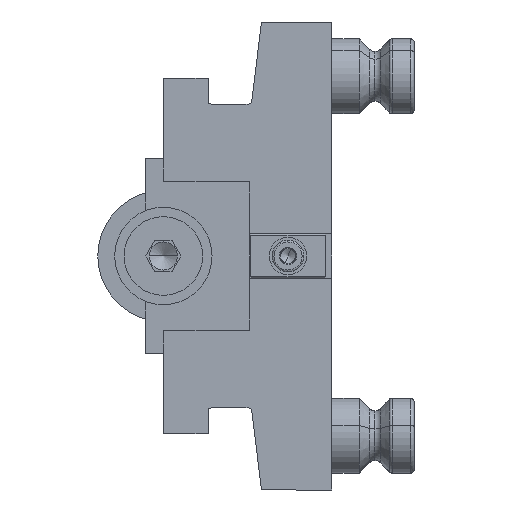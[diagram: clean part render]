
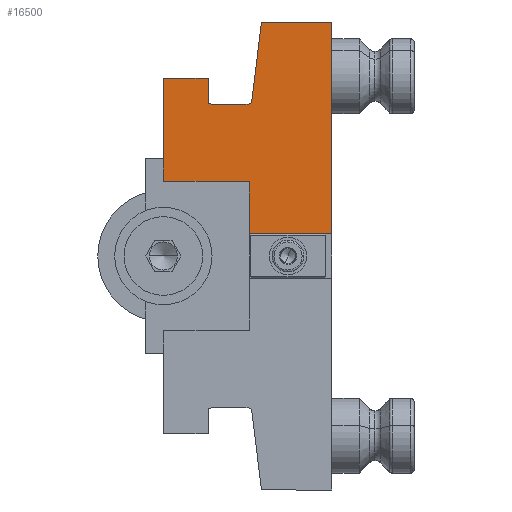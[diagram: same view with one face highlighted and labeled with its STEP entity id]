
A CAD part, left-side view. The second image highlights one B-rep face of the part: STEP entity #16500.
In plain terms, the highlighted planar face has unit normal (-1, 0, 0).
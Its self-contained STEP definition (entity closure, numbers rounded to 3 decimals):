
#33 = VECTOR ( 'NONE', #46264, 1000. ) ;
#1269 = EDGE_CURVE ( 'NONE', #70148, #40565, #21015, .T. ) ;
#3457 = CARTESIAN_POINT ( 'NONE',  ( -306., 21.392, 41.378 ) ) ;
#3581 = DIRECTION ( 'NONE',  ( 0., -1., 0. ) ) ;
#4679 = EDGE_CURVE ( 'NONE', #56685, #14913, #26000, .T. ) ;
#4867 = CARTESIAN_POINT ( 'NONE',  ( -306., 22.385, 40.5 ) ) ;
#5782 = EDGE_CURVE ( 'NONE', #31964, #12078, #46391, .T. ) ;
#5982 = CARTESIAN_POINT ( 'NONE',  ( -306., 21.5, 40.5 ) ) ;
#7239 = VERTEX_POINT ( 'NONE', #19190 ) ;
#7470 = VECTOR ( 'NONE', #3581, 1000. ) ;
#8412 = VERTEX_POINT ( 'NONE', #3457 ) ;
#8748 = VECTOR ( 'NONE', #32123, 1000. ) ;
#10041 = ORIENTED_EDGE ( 'NONE', *, *, #61524, .F. ) ;
#10936 = EDGE_CURVE ( 'NONE', #7239, #48722, #37997, .T. ) ;
#11142 = DIRECTION ( 'NONE',  ( 0., -1., 0. ) ) ;
#12078 = VERTEX_POINT ( 'NONE', #70198 ) ;
#12274 = CARTESIAN_POINT ( 'NONE',  ( -306., 31.8, 41.5 ) ) ;
#12289 = ORIENTED_EDGE ( 'NONE', *, *, #25690, .T. ) ;
#12666 = DIRECTION ( 'NONE',  ( 0., 0., -1. ) ) ;
#13086 = DIRECTION ( 'NONE',  ( 0., 0., -1. ) ) ;
#13929 = VECTOR ( 'NONE', #13086, 1000. ) ;
#14732 = CARTESIAN_POINT ( 'NONE',  ( -306., 18.799, 62.5 ) ) ;
#14913 = VERTEX_POINT ( 'NONE', #66092 ) ;
#14928 = DIRECTION ( 'NONE',  ( 0., 0., 1. ) ) ;
#15620 = ORIENTED_EDGE ( 'NONE', *, *, #85748, .F. ) ;
#16189 = VERTEX_POINT ( 'NONE', #62921 ) ;
#16500 = ADVANCED_FACE ( 'NONE', ( #18642 ), #59994, .T. ) ;
#18375 = EDGE_CURVE ( 'NONE', #74266, #60762, #84140, .T. ) ;
#18505 = EDGE_CURVE ( 'NONE', #48722, #14913, #35130, .T. ) ;
#18642 = FACE_OUTER_BOUND ( 'NONE', #55937, .T. ) ;
#19190 = CARTESIAN_POINT ( 'NONE',  ( -306., 0., 62.5 ) ) ;
#19202 = AXIS2_PLACEMENT_3D ( 'NONE', #12274, #64715, #66417 ) ;
#19502 = CARTESIAN_POINT ( 'NONE',  ( -306., 45., 20. ) ) ;
#20625 = CARTESIAN_POINT ( 'NONE',  ( -306., 22., 19.8 ) ) ;
#21015 = LINE ( 'NONE', #27271, #70887 ) ;
#21571 = CARTESIAN_POINT ( 'NONE',  ( -306., 45.2, 47.5 ) ) ;
#25690 = EDGE_CURVE ( 'NONE', #36377, #31964, #82382, .T. ) ;
#25750 = DIRECTION ( 'NONE',  ( -1., 0., 0. ) ) ;
#26000 = LINE ( 'NONE', #20625, #13929 ) ;
#27271 = CARTESIAN_POINT ( 'NONE',  ( -306., 33., 40.7 ) ) ;
#28856 = ORIENTED_EDGE ( 'NONE', *, *, #4679, .T. ) ;
#30481 = DIRECTION ( 'NONE',  ( 0., 0., -1. ) ) ;
#31956 = EDGE_CURVE ( 'NONE', #70539, #8412, #53005, .T. ) ;
#31964 = VERTEX_POINT ( 'NONE', #71163 ) ;
#32123 = DIRECTION ( 'NONE',  ( 0., 0.122, -0.993 ) ) ;
#33093 = VECTOR ( 'NONE', #39802, 1000. ) ;
#34680 = DIRECTION ( 'NONE',  ( 0., 1., 0. ) ) ;
#35130 = LINE ( 'NONE', #54246, #39799 ) ;
#35401 = CARTESIAN_POINT ( 'NONE',  ( -306., 22., 19.8 ) ) ;
#36377 = VERTEX_POINT ( 'NONE', #76752 ) ;
#36786 = ORIENTED_EDGE ( 'NONE', *, *, #68474, .T. ) ;
#36960 = ORIENTED_EDGE ( 'NONE', *, *, #18375, .F. ) ;
#37494 = CARTESIAN_POINT ( 'NONE',  ( -306., 33., 19.699 ) ) ;
#37997 = LINE ( 'NONE', #65036, #69357 ) ;
#38215 = ORIENTED_EDGE ( 'NONE', *, *, #18505, .F. ) ;
#38909 = CARTESIAN_POINT ( 'NONE',  ( -306., 33., 47.5 ) ) ;
#39799 = VECTOR ( 'NONE', #34680, 1000. ) ;
#39802 = DIRECTION ( 'NONE',  ( 0., 1., 0. ) ) ;
#40414 = ORIENTED_EDGE ( 'NONE', *, *, #1269, .F. ) ;
#40565 = VERTEX_POINT ( 'NONE', #47699 ) ;
#41189 = VECTOR ( 'NONE', #74739, 1000. ) ;
#41205 = AXIS2_PLACEMENT_3D ( 'NONE', #75325, #68184, #14928 ) ;
#41465 = ORIENTED_EDGE ( 'NONE', *, *, #42324, .T. ) ;
#42324 = EDGE_CURVE ( 'NONE', #8412, #87703, #80839, .T. ) ;
#45036 = ORIENTED_EDGE ( 'NONE', *, *, #64768, .F. ) ;
#45527 = ORIENTED_EDGE ( 'NONE', *, *, #77414, .T. ) ;
#45844 = CARTESIAN_POINT ( 'NONE',  ( -306., 45.2, 19.8 ) ) ;
#46264 = DIRECTION ( 'NONE',  ( 0., 0., 1. ) ) ;
#46391 = LINE ( 'NONE', #47733, #41189 ) ;
#47319 = DIRECTION ( 'NONE',  ( 0., -1., 0. ) ) ;
#47699 = CARTESIAN_POINT ( 'NONE',  ( -306., 32.4, 40.7 ) ) ;
#47733 = CARTESIAN_POINT ( 'NONE',  ( -306., 45., 62.8 ) ) ;
#48722 = VERTEX_POINT ( 'NONE', #84783 ) ;
#52476 = DIRECTION ( 'NONE',  ( 0., 1., 0. ) ) ;
#52689 = CARTESIAN_POINT ( 'NONE',  ( -306., 33., 40.7 ) ) ;
#53005 = LINE ( 'NONE', #58790, #8748 ) ;
#53298 = VECTOR ( 'NONE', #12666, 1000. ) ;
#53839 = CARTESIAN_POINT ( 'NONE',  ( -306., 33., 19.8 ) ) ;
#54246 = CARTESIAN_POINT ( 'NONE',  ( -306., 22., 6. ) ) ;
#54992 = EDGE_CURVE ( 'NONE', #74266, #56685, #84497, .T. ) ;
#55937 = EDGE_LOOP ( 'NONE', ( #28856, #38215, #63504, #15620, #60418, #41465, #36786, #45527, #40414, #10041, #12289, #77911, #45036, #36960, #71514 ) ) ;
#56512 = VECTOR ( 'NONE', #59949, 1000. ) ;
#56685 = VERTEX_POINT ( 'NONE', #35401 ) ;
#57601 = CIRCLE ( 'NONE', #19202, 1. ) ;
#58790 = CARTESIAN_POINT ( 'NONE',  ( -306., 18.762, 62.8 ) ) ;
#59037 = AXIS2_PLACEMENT_3D ( 'NONE', #65685, #25750, #86614 ) ;
#59949 = DIRECTION ( 'NONE',  ( 0., 1., 0. ) ) ;
#59994 = PLANE ( 'NONE',  #59037 ) ;
#60418 = ORIENTED_EDGE ( 'NONE', *, *, #31956, .T. ) ;
#60762 = VERTEX_POINT ( 'NONE', #80581 ) ;
#61524 = EDGE_CURVE ( 'NONE', #36377, #70148, #73065, .T. ) ;
#62921 = CARTESIAN_POINT ( 'NONE',  ( -306., 31.8, 40.5 ) ) ;
#63504 = ORIENTED_EDGE ( 'NONE', *, *, #10936, .F. ) ;
#64715 = DIRECTION ( 'NONE',  ( 1., 0., 0. ) ) ;
#64768 = EDGE_CURVE ( 'NONE', #60762, #12078, #87047, .T. ) ;
#65036 = CARTESIAN_POINT ( 'NONE',  ( -306., 0., 62.8 ) ) ;
#65685 = CARTESIAN_POINT ( 'NONE',  ( -306., 45., 62.8 ) ) ;
#66092 = CARTESIAN_POINT ( 'NONE',  ( -306., 22., 6. ) ) ;
#66417 = DIRECTION ( 'NONE',  ( 0., 0., 1. ) ) ;
#68075 = VECTOR ( 'NONE', #52476, 1000. ) ;
#68184 = DIRECTION ( 'NONE',  ( 1., 0., 0. ) ) ;
#68474 = EDGE_CURVE ( 'NONE', #87703, #16189, #74413, .T. ) ;
#69357 = VECTOR ( 'NONE', #30481, 1000. ) ;
#70148 = VERTEX_POINT ( 'NONE', #52689 ) ;
#70198 = CARTESIAN_POINT ( 'NONE',  ( -306., 45., 20. ) ) ;
#70539 = VERTEX_POINT ( 'NONE', #14732 ) ;
#70887 = VECTOR ( 'NONE', #47319, 1000. ) ;
#71163 = CARTESIAN_POINT ( 'NONE',  ( -306., 45., 47.5 ) ) ;
#71514 = ORIENTED_EDGE ( 'NONE', *, *, #54992, .T. ) ;
#72432 = LINE ( 'NONE', #84488, #7470 ) ;
#73065 = LINE ( 'NONE', #38909, #53298 ) ;
#73283 = VECTOR ( 'NONE', #11142, 1000. ) ;
#74266 = VERTEX_POINT ( 'NONE', #53839 ) ;
#74413 = LINE ( 'NONE', #5982, #33093 ) ;
#74739 = DIRECTION ( 'NONE',  ( 0., 0., -1. ) ) ;
#75325 = CARTESIAN_POINT ( 'NONE',  ( -306., 22.385, 41.5 ) ) ;
#76752 = CARTESIAN_POINT ( 'NONE',  ( -306., 33., 47.5 ) ) ;
#77414 = EDGE_CURVE ( 'NONE', #16189, #40565, #57601, .T. ) ;
#77911 = ORIENTED_EDGE ( 'NONE', *, *, #5782, .T. ) ;
#80581 = CARTESIAN_POINT ( 'NONE',  ( -306., 33., 20. ) ) ;
#80839 = CIRCLE ( 'NONE', #41205, 1. ) ;
#82382 = LINE ( 'NONE', #21571, #56512 ) ;
#84140 = LINE ( 'NONE', #37494, #33 ) ;
#84488 = CARTESIAN_POINT ( 'NONE',  ( -306., 45., 62.5 ) ) ;
#84497 = LINE ( 'NONE', #45844, #73283 ) ;
#84783 = CARTESIAN_POINT ( 'NONE',  ( -306., 0., 6. ) ) ;
#85748 = EDGE_CURVE ( 'NONE', #70539, #7239, #72432, .T. ) ;
#86614 = DIRECTION ( 'NONE',  ( 0., 0., 1. ) ) ;
#87047 = LINE ( 'NONE', #19502, #68075 ) ;
#87703 = VERTEX_POINT ( 'NONE', #4867 ) ;
